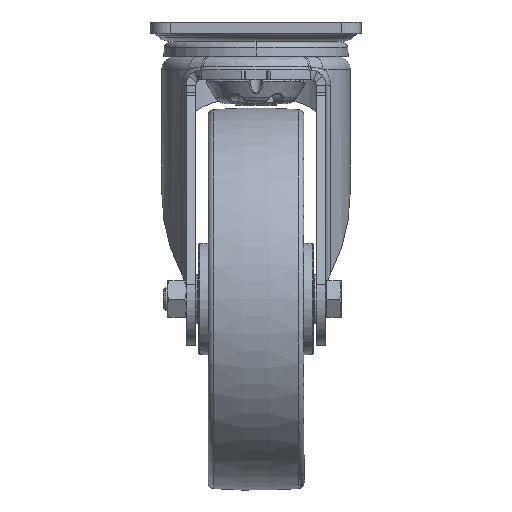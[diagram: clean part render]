
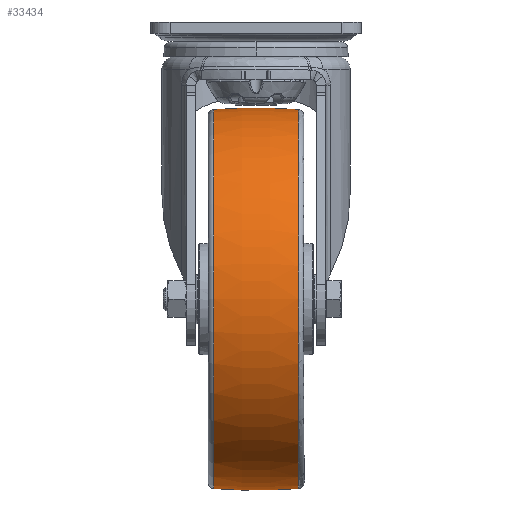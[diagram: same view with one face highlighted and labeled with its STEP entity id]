
A CAD part, top view. The second image highlights one B-rep face of the part: STEP entity #33434.
In plain terms, the highlighted toroidal (fillet/blend) face has major radius 200 mm and minor radius 300 mm.
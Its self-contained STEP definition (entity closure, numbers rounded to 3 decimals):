
#1763 = CIRCLE ( 'NONE', #62487, 99.176 ) ;
#5503 = ORIENTED_EDGE ( 'NONE', *, *, #39000, .F. ) ;
#7911 = VERTEX_POINT ( 'NONE', #27371 ) ;
#8000 = EDGE_CURVE ( 'NONE', #7911, #17320, #68229, .T. ) ;
#8126 = AXIS2_PLACEMENT_3D ( 'NONE', #58006, #80175, #51087 ) ;
#14884 = CIRCLE ( 'NONE', #8126, 300. ) ;
#15523 = DIRECTION ( 'NONE',  ( 0.074, 0.997, 0. ) ) ;
#17320 = VERTEX_POINT ( 'NONE', #64096 ) ;
#19061 = CARTESIAN_POINT ( 'NONE',  ( 0., 0., 0. ) ) ;
#20012 = DIRECTION ( 'NONE',  ( 0., -1., 0. ) ) ;
#20955 = CARTESIAN_POINT ( 'NONE',  ( 22.222, 0., 0. ) ) ;
#26032 = AXIS2_PLACEMENT_3D ( 'NONE', #19061, #41622, #41319 ) ;
#26524 = VERTEX_POINT ( 'NONE', #92365 ) ;
#27371 = CARTESIAN_POINT ( 'NONE',  ( 22.222, -99.176, 0. ) ) ;
#33434 = ADVANCED_FACE ( 'NONE', ( #52425 ), #49114, .T. ) ;
#37428 = EDGE_CURVE ( 'NONE', #7911, #58083, #14884, .T. ) ;
#39000 = EDGE_CURVE ( 'NONE', #17320, #26524, #86043, .T. ) ;
#41319 = DIRECTION ( 'NONE',  ( 0., 1., 0. ) ) ;
#41622 = DIRECTION ( 'NONE',  ( 1., 0., 0. ) ) ;
#45342 = CARTESIAN_POINT ( 'NONE',  ( 0., -200., 0. ) ) ;
#48183 = DIRECTION ( 'NONE',  ( 0., -1., 0. ) ) ;
#49114 = TOROIDAL_SURFACE ( 'NONE', #26032, -200., 300. ) ;
#51087 = DIRECTION ( 'NONE',  ( 0.074, -0.997, 0. ) ) ;
#51944 = ORIENTED_EDGE ( 'NONE', *, *, #88181, .T. ) ;
#52242 = ORIENTED_EDGE ( 'NONE', *, *, #37428, .T. ) ;
#52425 = FACE_OUTER_BOUND ( 'NONE', #61273, .T. ) ;
#57689 = DIRECTION ( 'NONE',  ( 1., 0., 0. ) ) ;
#58006 = CARTESIAN_POINT ( 'NONE',  ( 0., 200., 0. ) ) ;
#58083 = VERTEX_POINT ( 'NONE', #91159 ) ;
#58695 = ORIENTED_EDGE ( 'NONE', *, *, #8000, .F. ) ;
#61273 = EDGE_LOOP ( 'NONE', ( #51944, #5503, #58695, #52242 ) ) ;
#62487 = AXIS2_PLACEMENT_3D ( 'NONE', #83907, #62685, #48183 ) ;
#62685 = DIRECTION ( 'NONE',  ( 1., 0., 0. ) ) ;
#64096 = CARTESIAN_POINT ( 'NONE',  ( 22.222, 99.176, 0. ) ) ;
#68229 = CIRCLE ( 'NONE', #93738, 99.176 ) ;
#74155 = DIRECTION ( 'NONE',  ( 0., 0., 1. ) ) ;
#80175 = DIRECTION ( 'NONE',  ( 0., 0., -1. ) ) ;
#83907 = CARTESIAN_POINT ( 'NONE',  ( -22.222, 0., 0. ) ) ;
#86043 = CIRCLE ( 'NONE', #86572, 300. ) ;
#86572 = AXIS2_PLACEMENT_3D ( 'NONE', #45342, #74155, #15523 ) ;
#88181 = EDGE_CURVE ( 'NONE', #58083, #26524, #1763, .T. ) ;
#91159 = CARTESIAN_POINT ( 'NONE',  ( -22.222, -99.176, 0. ) ) ;
#92365 = CARTESIAN_POINT ( 'NONE',  ( -22.222, 99.176, 0. ) ) ;
#93738 = AXIS2_PLACEMENT_3D ( 'NONE', #20955, #57689, #20012 ) ;
